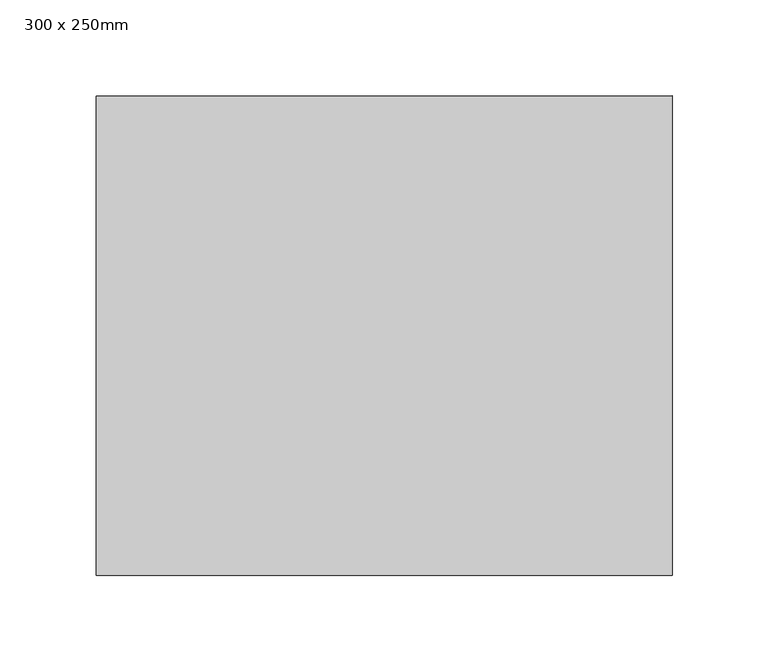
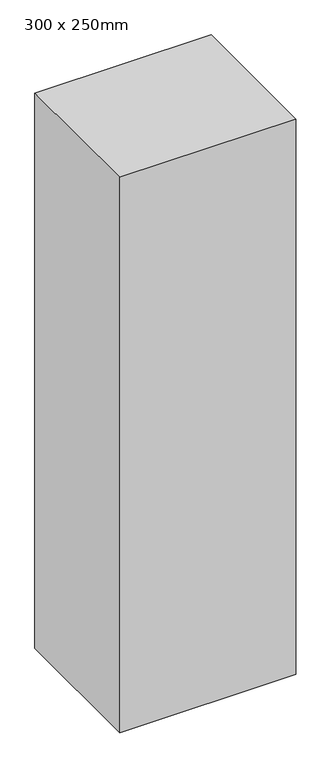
"""IFC4 building model written with IfcOpenShell, lengths in millimetres: column geometry, 混凝土 - 矩形 - 柱 : 300 x 250mm."""

from ifc_helpers import new_model, si_unit, frame, origin, place, context, project, spatial, polyline, outline, extrude, source, transform, mapped, element, save


def column_300_x_250mm_c71c2dc7(model_context):
    return source(origin(), model_context, "Body", "SweptSolid", [
        extrude(outline(polyline([(150.0, 125.0), (150.0, -125.0), (-150.0, -125.0), (-150.0, 125.0), (150.0, 125.0)])), frame((0.0, 0.0, 3000.0), z_axis=(0.0, 0.0, 1.0), x_axis=(1.0, 0.0, 0.0)), (0.0, 0.0, 1.0), 1000.0),
    ])


if __name__ == "__main__":
    model = new_model("IFC4")
    model_context = context("Model", 3, world=origin())
    ifc_project = project(units=[si_unit("LENGTHUNIT", "METRE", prefix="MILLI")], contexts=[model_context])
    site = spatial("IfcSite", under=ifc_project)
    building = spatial("IfcBuilding", under=site)
    placement = place(None, origin())
    column_300_x_250mm_shape = column_300_x_250mm_c71c2dc7(model_context)
    element("IfcColumn", 1, ObjectType="混凝土 - 矩形 - 柱 : 300 x 250mm", at=placement, inside=building, context=model_context, shape_type="MappedRepresentation", body=[
        mapped(column_300_x_250mm_shape, transform((0.0, 0.0, 0.0), x_axis=(1.0, 0.0, 0.0), y_axis=(0.0, 1.0, 0.0), z_axis=(0.0, 0.0, 1.0))),
    ])
    save(model, "model.ifc")
